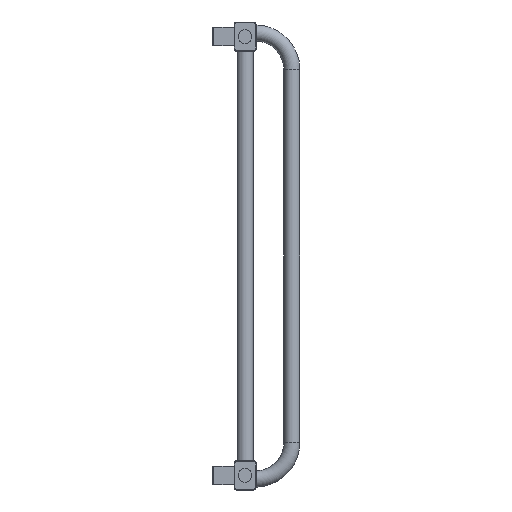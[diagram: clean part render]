
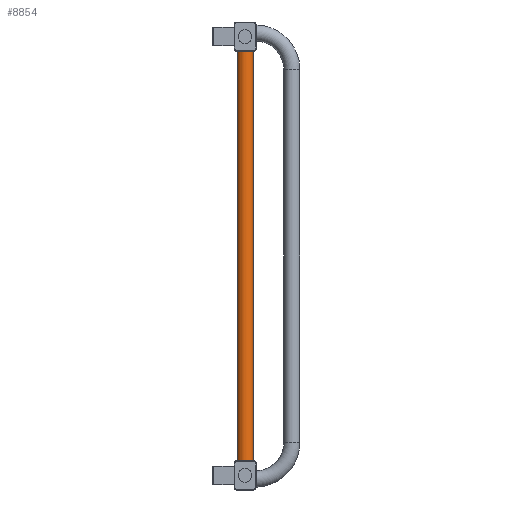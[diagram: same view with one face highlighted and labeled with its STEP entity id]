
A CAD part, left-side view. The second image highlights one B-rep face of the part: STEP entity #8854.
In plain terms, the highlighted cylindrical face has radius 11 mm (diameter 22 mm), a full revolution.
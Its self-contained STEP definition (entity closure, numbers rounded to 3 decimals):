
#2152=CARTESIAN_POINT('',(36.366,8.97,600.));
#2153=VERTEX_POINT('',#2152);
#2154=CARTESIAN_POINT('',(30.,0.,600.));
#2155=DIRECTION('',(0.,0.,1.0));
#2156=DIRECTION('',(-0.579,-0.815,0.));
#2157=AXIS2_PLACEMENT_3D('',#2154,#2155,#2156);
#2158=CIRCLE('',#2157,11.);
#2159=EDGE_CURVE('',#2153,#2153,#2158,.T.);
#6193=CARTESIAN_POINT('',(36.366,8.97,40.));
#6194=VERTEX_POINT('',#6193);
#6195=CARTESIAN_POINT('',(30.,0.,40.));
#6196=DIRECTION('',(0.,0.,1.0));
#6197=DIRECTION('',(-0.579,-0.815,0.));
#6198=AXIS2_PLACEMENT_3D('',#6195,#6196,#6197);
#6199=CIRCLE('',#6198,11.);
#6200=EDGE_CURVE('',#6194,#6194,#6199,.T.);
#8843=CARTESIAN_POINT('',(30.,0.,600.));
#8844=DIRECTION('',(0.,0.,-1.0));
#8845=DIRECTION('',(-0.579,-0.815,0.));
#8846=AXIS2_PLACEMENT_3D('',#8843,#8844,#8845);
#8847=CYLINDRICAL_SURFACE('',#8846,11.);
#8848=ORIENTED_EDGE('',*,*,#6200,.T.);
#8849=EDGE_LOOP('',(#8848));
#8850=FACE_OUTER_BOUND('',#8849,.T.);
#8851=ORIENTED_EDGE('',*,*,#2159,.F.);
#8852=EDGE_LOOP('',(#8851));
#8853=FACE_BOUND('',#8852,.T.);
#8854=ADVANCED_FACE('',(#8850,#8853),#8847,.T.);
